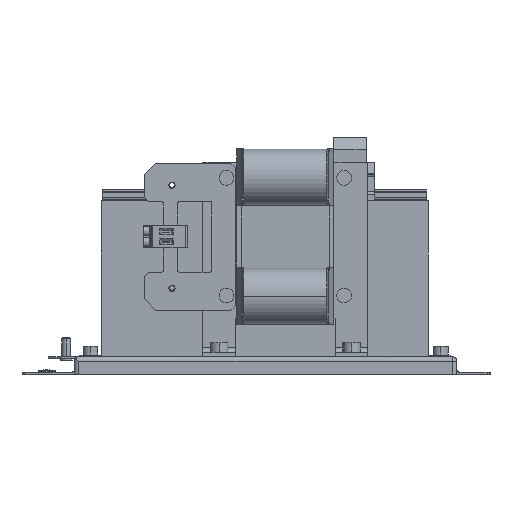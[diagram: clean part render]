
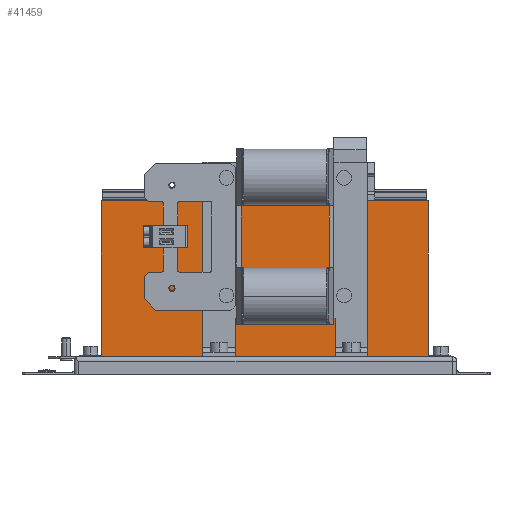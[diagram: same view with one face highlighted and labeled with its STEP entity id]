
A CAD part, left-side view. The second image highlights one B-rep face of the part: STEP entity #41459.
In plain terms, the highlighted planar face has unit normal (-1, 0, 0).
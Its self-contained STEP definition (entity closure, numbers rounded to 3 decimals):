
#700 = LINE ( 'NONE', #23126, #4692 ) ;
#800 = CARTESIAN_POINT ( 'NONE',  ( 25.4, 0., 0. ) ) ;
#1595 = ORIENTED_EDGE ( 'NONE', *, *, #3184, .F. ) ;
#3184 = EDGE_CURVE ( 'NONE', #26122, #10644, #700, .T. ) ;
#4675 = DIRECTION ( 'NONE',  ( 0., 0., -1. ) ) ;
#4692 = VECTOR ( 'NONE', #38914, 1000. ) ;
#5204 = DIRECTION ( 'NONE',  ( 1., 0., 0. ) ) ;
#9227 = EDGE_CURVE ( 'NONE', #10644, #19884, #31160, .T. ) ;
#9366 = PLANE ( 'NONE',  #10207 ) ;
#9867 = LINE ( 'NONE', #800, #35106 ) ;
#10207 = AXIS2_PLACEMENT_3D ( 'NONE', #22117, #5204, #31789 ) ;
#10644 = VERTEX_POINT ( 'NONE', #36943 ) ;
#10857 = ORIENTED_EDGE ( 'NONE', *, *, #31525, .F. ) ;
#11870 = DIRECTION ( 'NONE',  ( 0., -1., 0. ) ) ;
#18750 = CARTESIAN_POINT ( 'NONE',  ( 25.4, -17., 106. ) ) ;
#19884 = VERTEX_POINT ( 'NONE', #39143 ) ;
#22117 = CARTESIAN_POINT ( 'NONE',  ( 25.4, -17., 0. ) ) ;
#22607 = DIRECTION ( 'NONE',  ( 0., 1., 0. ) ) ;
#22768 = VECTOR ( 'NONE', #4675, 1000. ) ;
#23126 = CARTESIAN_POINT ( 'NONE',  ( 25.4, -17., 104. ) ) ;
#23404 = ORIENTED_EDGE ( 'NONE', *, *, #9227, .F. ) ;
#23712 = CARTESIAN_POINT ( 'NONE',  ( 25.4, -239., 0. ) ) ;
#25280 = FACE_OUTER_BOUND ( 'NONE', #41161, .T. ) ;
#25291 = ORIENTED_EDGE ( 'NONE', *, *, #39570, .F. ) ;
#26122 = VERTEX_POINT ( 'NONE', #28335 ) ;
#28335 = CARTESIAN_POINT ( 'NONE',  ( 25.4, -17., 0. ) ) ;
#31160 = LINE ( 'NONE', #18750, #40997 ) ;
#31525 = EDGE_CURVE ( 'NONE', #39472, #26122, #9867, .T. ) ;
#31789 = DIRECTION ( 'NONE',  ( 0., 0., -1. ) ) ;
#35106 = VECTOR ( 'NONE', #22607, 1000. ) ;
#36769 = CARTESIAN_POINT ( 'NONE',  ( 25.4, -239., 0. ) ) ;
#36943 = CARTESIAN_POINT ( 'NONE',  ( 25.4, -17., 106. ) ) ;
#38914 = DIRECTION ( 'NONE',  ( 0., 0., 1. ) ) ;
#39143 = CARTESIAN_POINT ( 'NONE',  ( 25.4, -239., 106. ) ) ;
#39472 = VERTEX_POINT ( 'NONE', #23712 ) ;
#39570 = EDGE_CURVE ( 'NONE', #19884, #39472, #39708, .T. ) ;
#39708 = LINE ( 'NONE', #36769, #22768 ) ;
#40997 = VECTOR ( 'NONE', #11870, 1000. ) ;
#41161 = EDGE_LOOP ( 'NONE', ( #1595, #10857, #25291, #23404 ) ) ;
#41459 = ADVANCED_FACE ( 'NONE', ( #25280 ), #9366, .F. ) ;
